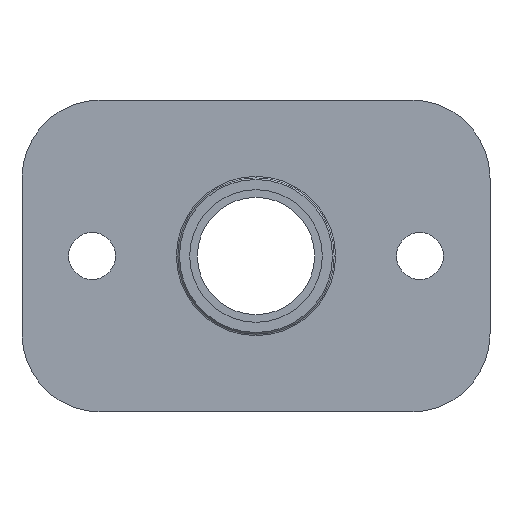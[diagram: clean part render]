
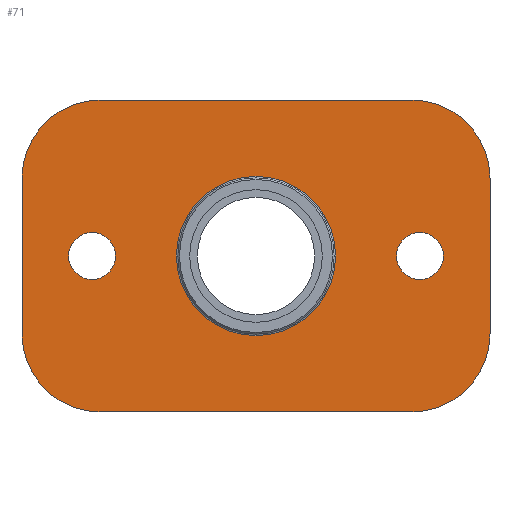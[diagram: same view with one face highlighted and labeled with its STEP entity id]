
A CAD part, front view. The second image highlights one B-rep face of the part: STEP entity #71.
In plain terms, the highlighted planar face has unit normal (0, -1, 0).
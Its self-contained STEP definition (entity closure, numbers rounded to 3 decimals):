
#6 = EDGE_LOOP ( 'NONE', ( #11 ) ) ;
#11 = ORIENTED_EDGE ( 'NONE', *, *, #698, .T. ) ;
#25 = LINE ( 'NONE', #414, #113 ) ;
#43 = DIRECTION ( 'NONE',  ( 0., 1., 0. ) ) ;
#45 = VERTEX_POINT ( 'NONE', #748 ) ;
#52 = AXIS2_PLACEMENT_3D ( 'NONE', #473, #412, #671 ) ;
#53 = CIRCLE ( 'NONE', #675, 10. ) ;
#55 = EDGE_CURVE ( 'NONE', #101, #199, #344, .T. ) ;
#59 = AXIS2_PLACEMENT_3D ( 'NONE', #622, #43, #560 ) ;
#60 = CARTESIAN_POINT ( 'NONE',  ( 21., 0., 0. ) ) ;
#71 = ADVANCED_FACE ( 'NONE', ( #643, #444, #627, #322 ), #508, .F. ) ;
#82 = DIRECTION ( 'NONE',  ( 0., 0., 1. ) ) ;
#99 = EDGE_CURVE ( 'NONE', #328, #520, #440, .T. ) ;
#101 = VERTEX_POINT ( 'NONE', #819 ) ;
#102 = DIRECTION ( 'NONE',  ( 0., 0., 1. ) ) ;
#113 = VECTOR ( 'NONE', #590, 1000. ) ;
#114 = CARTESIAN_POINT ( 'NONE',  ( 19.975, 0., -19.975 ) ) ;
#115 = CARTESIAN_POINT ( 'NONE',  ( -19.975, 0., -19.975 ) ) ;
#122 = DIRECTION ( 'NONE',  ( 0., 1., 0. ) ) ;
#123 = EDGE_CURVE ( 'NONE', #529, #101, #431, .T. ) ;
#126 = DIRECTION ( 'NONE',  ( 0., 1., 0. ) ) ;
#139 = VECTOR ( 'NONE', #329, 1000. ) ;
#140 = EDGE_LOOP ( 'NONE', ( #358 ) ) ;
#151 = ORIENTED_EDGE ( 'NONE', *, *, #99, .F. ) ;
#155 = CARTESIAN_POINT ( 'NONE',  ( 29.975, 0., -9.975 ) ) ;
#156 = ORIENTED_EDGE ( 'NONE', *, *, #428, .F. ) ;
#165 = ORIENTED_EDGE ( 'NONE', *, *, #555, .F. ) ;
#180 = VERTEX_POINT ( 'NONE', #307 ) ;
#199 = VERTEX_POINT ( 'NONE', #524 ) ;
#202 = CIRCLE ( 'NONE', #317, 3. ) ;
#225 = CARTESIAN_POINT ( 'NONE',  ( -19.975, 0., 19.975 ) ) ;
#252 = DIRECTION ( 'NONE',  ( 0., 0., 1. ) ) ;
#259 = DIRECTION ( 'NONE',  ( 0., 0., 1. ) ) ;
#277 = AXIS2_PLACEMENT_3D ( 'NONE', #447, #126, #384 ) ;
#278 = ORIENTED_EDGE ( 'NONE', *, *, #607, .F. ) ;
#296 = VERTEX_POINT ( 'NONE', #375 ) ;
#299 = EDGE_LOOP ( 'NONE', ( #618 ) ) ;
#300 = CIRCLE ( 'NONE', #52, 10. ) ;
#304 = DIRECTION ( 'NONE',  ( 0., 1., 0. ) ) ;
#307 = CARTESIAN_POINT ( 'NONE',  ( -21., 0., 3. ) ) ;
#317 = AXIS2_PLACEMENT_3D ( 'NONE', #620, #304, #252 ) ;
#322 = FACE_OUTER_BOUND ( 'NONE', #397, .T. ) ;
#328 = VERTEX_POINT ( 'NONE', #599 ) ;
#329 = DIRECTION ( 'NONE',  ( 0., 0., -1. ) ) ;
#334 = ORIENTED_EDGE ( 'NONE', *, *, #55, .F. ) ;
#344 = CIRCLE ( 'NONE', #277, 10. ) ;
#358 = ORIENTED_EDGE ( 'NONE', *, *, #754, .T. ) ;
#366 = DIRECTION ( 'NONE',  ( 0., 0., -1. ) ) ;
#371 = CARTESIAN_POINT ( 'NONE',  ( 29.975, 0., 9.975 ) ) ;
#373 = DIRECTION ( 'NONE',  ( -1., 0., 0. ) ) ;
#375 = CARTESIAN_POINT ( 'NONE',  ( 21., 0., 3. ) ) ;
#384 = DIRECTION ( 'NONE',  ( 0., 0., 1. ) ) ;
#397 = EDGE_LOOP ( 'NONE', ( #156, #537, #334, #429, #165, #278, #151, #481 ) ) ;
#403 = CARTESIAN_POINT ( 'NONE',  ( -29.975, 0., -9.975 ) ) ;
#408 = DIRECTION ( 'NONE',  ( 0., 1., 0. ) ) ;
#412 = DIRECTION ( 'NONE',  ( 0., 1., 0. ) ) ;
#414 = CARTESIAN_POINT ( 'NONE',  ( -19.975, 0., 19.975 ) ) ;
#419 = AXIS2_PLACEMENT_3D ( 'NONE', #60, #837, #259 ) ;
#421 = CARTESIAN_POINT ( 'NONE',  ( -29.975, 0., 9.975 ) ) ;
#426 = DIRECTION ( 'NONE',  ( 0., 1., 0. ) ) ;
#428 = EDGE_CURVE ( 'NONE', #714, #804, #300, .T. ) ;
#429 = ORIENTED_EDGE ( 'NONE', *, *, #123, .F. ) ;
#431 = LINE ( 'NONE', #115, #595 ) ;
#440 = CIRCLE ( 'NONE', #59, 10. ) ;
#441 = VERTEX_POINT ( 'NONE', #155 ) ;
#444 = FACE_BOUND ( 'NONE', #6, .T. ) ;
#447 = CARTESIAN_POINT ( 'NONE',  ( -19.975, 0., -9.975 ) ) ;
#466 = CARTESIAN_POINT ( 'NONE',  ( 0., 0., 0. ) ) ;
#473 = CARTESIAN_POINT ( 'NONE',  ( -19.975, 0., 9.975 ) ) ;
#481 = ORIENTED_EDGE ( 'NONE', *, *, #771, .F. ) ;
#484 = LINE ( 'NONE', #403, #829 ) ;
#494 = DIRECTION ( 'NONE',  ( 0., 0., 1. ) ) ;
#508 = PLANE ( 'NONE',  #554 ) ;
#515 = LINE ( 'NONE', #712, #139 ) ;
#520 = VERTEX_POINT ( 'NONE', #371 ) ;
#524 = CARTESIAN_POINT ( 'NONE',  ( -29.975, 0., -9.975 ) ) ;
#529 = VERTEX_POINT ( 'NONE', #114 ) ;
#537 = ORIENTED_EDGE ( 'NONE', *, *, #807, .F. ) ;
#554 = AXIS2_PLACEMENT_3D ( 'NONE', #699, #122, #494 ) ;
#555 = EDGE_CURVE ( 'NONE', #441, #529, #53, .T. ) ;
#560 = DIRECTION ( 'NONE',  ( 0., 0., 1. ) ) ;
#566 = EDGE_CURVE ( 'NONE', #180, #180, #202, .T. ) ;
#590 = DIRECTION ( 'NONE',  ( 1., 0., 0. ) ) ;
#595 = VECTOR ( 'NONE', #373, 1000. ) ;
#599 = CARTESIAN_POINT ( 'NONE',  ( 19.975, 0., 19.975 ) ) ;
#607 = EDGE_CURVE ( 'NONE', #520, #441, #515, .T. ) ;
#618 = ORIENTED_EDGE ( 'NONE', *, *, #566, .T. ) ;
#620 = CARTESIAN_POINT ( 'NONE',  ( -21., 0., 0. ) ) ;
#621 = CIRCLE ( 'NONE', #731, 10.2 ) ;
#622 = CARTESIAN_POINT ( 'NONE',  ( 19.975, 0., 9.975 ) ) ;
#627 = FACE_BOUND ( 'NONE', #299, .T. ) ;
#643 = FACE_BOUND ( 'NONE', #140, .T. ) ;
#671 = DIRECTION ( 'NONE',  ( 0., 0., 1. ) ) ;
#675 = AXIS2_PLACEMENT_3D ( 'NONE', #831, #426, #366 ) ;
#698 = EDGE_CURVE ( 'NONE', #296, #296, #704, .T. ) ;
#699 = CARTESIAN_POINT ( 'NONE',  ( -19.975, 0., 9.975 ) ) ;
#704 = CIRCLE ( 'NONE', #419, 3. ) ;
#712 = CARTESIAN_POINT ( 'NONE',  ( 29.975, 0., -9.975 ) ) ;
#714 = VERTEX_POINT ( 'NONE', #421 ) ;
#731 = AXIS2_PLACEMENT_3D ( 'NONE', #466, #408, #102 ) ;
#748 = CARTESIAN_POINT ( 'NONE',  ( 0., 0., 10.2 ) ) ;
#754 = EDGE_CURVE ( 'NONE', #45, #45, #621, .T. ) ;
#771 = EDGE_CURVE ( 'NONE', #804, #328, #25, .T. ) ;
#804 = VERTEX_POINT ( 'NONE', #225 ) ;
#807 = EDGE_CURVE ( 'NONE', #199, #714, #484, .T. ) ;
#819 = CARTESIAN_POINT ( 'NONE',  ( -19.975, 0., -19.975 ) ) ;
#829 = VECTOR ( 'NONE', #82, 1000. ) ;
#831 = CARTESIAN_POINT ( 'NONE',  ( 19.975, 0., -9.975 ) ) ;
#837 = DIRECTION ( 'NONE',  ( 0., 1., 0. ) ) ;
